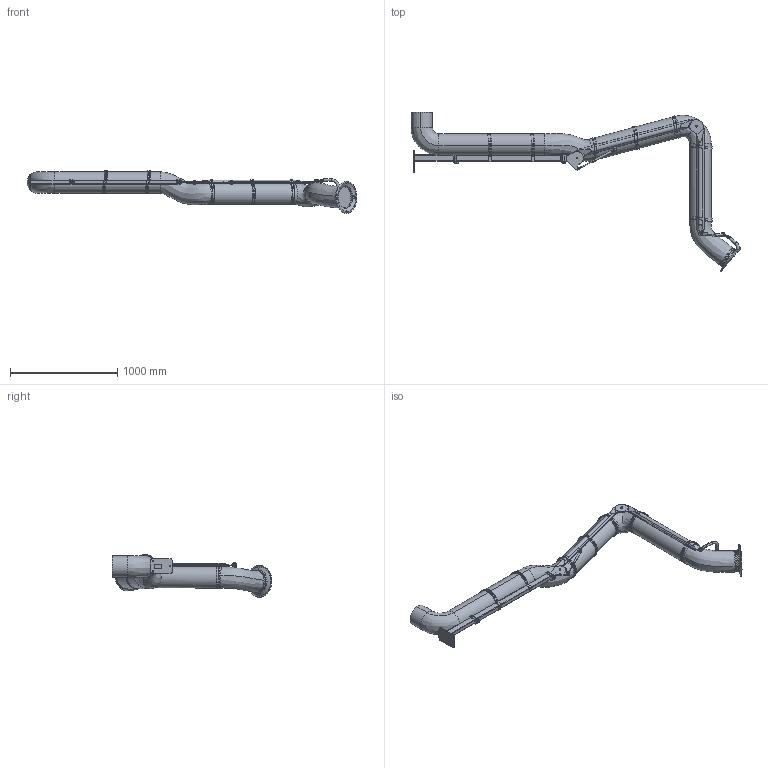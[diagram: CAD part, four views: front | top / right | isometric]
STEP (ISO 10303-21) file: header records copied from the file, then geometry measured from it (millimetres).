
FILE_DESCRIPTION((''),'2;1');
FILE_NAME('PSS_4000-200','2023-02-07T15:05:27',('Tomas Bellgran'),(''),'CREO PARAMETRIC BY PTC INC, 2018260','CREO PARAMETRIC BY PTC INC, 2018260','');
FILE_SCHEMA(('AUTOMOTIVE_DESIGN { 1 0 10303 214 1 1 1 1 }'));
Products named in the file (37): 131085_LIGHT; 131041; 131045_LIGHT; 131045; 144355; 131150; 139383; 131151; 131173; 144356; 141589; 134343_AF0; G_P136_WELD-REF; 141590; 122717_LIGHT; 122750_LIGHT; 130317; ROD_STAB_8-160-REF; 131095; 130322_AF12; 131145; 131131_AF0; 131134_AF0; 131139; 107526; 132685; 131136; 131137; 131138; 107526_AF0; 107526_AF1; SKRUVSATS_LITEN; SKRUVSATS_BIG; SKRUVSATS_LITEN-2; SKRUVSATS_BIGGEST; 120127_COMPL_LIGHT; PSS_4000-200
Assembly tree (56 placements, depth 3):
  PSS_4000-200
    131041
      131085_LIGHT
    131045
      131045_LIGHT
    144355  x4
    131150
    131173
      139383
      131151
    144356  x2
    141590
      141589
      134343_AF0
      G_P136_WELD-REF
    122717_LIGHT
    122750_LIGHT
    130322_AF12
      130317
      ROD_STAB_8-160-REF
      131095  x2
    131145  x2
    131139  x5
      131131_AF0
      131134_AF0
    107526  x5
    132685
    131138  x2
      131136
      131137
    107526_AF0
    107526_AF1
    SKRUVSATS_LITEN  x2
    SKRUVSATS_BIG  x2
    SKRUVSATS_LITEN-2  x2
    SKRUVSATS_BIGGEST  x2
    120127_COMPL_LIGHT  x2
Bounding box: 3070.15 x 1485.18 x 396.28 mm (x, y, z)
Volume: 137143365.6 mm3; surface area: 4076504.3 mm2
Topology: 54 solids, 55 shells, 1429 faces, 3413 edges, 2282 vertices
Faces by surface type: plane 484, cylinder 434, bspline 412, torus 48, cone 42, extrusion 5, sphere 4
Entity records: 59784 total; most frequent: CARTESIAN_POINT 29121, DIRECTION 3933, ORIENTED_EDGE 3678, PRESENTATION_STYLE_ASSIGNMENT 2575, STYLED_ITEM 2548, CURVE_STYLE 1991, EDGE_CURVE 1839, AXIS2_PLACEMENT_3D 1508
